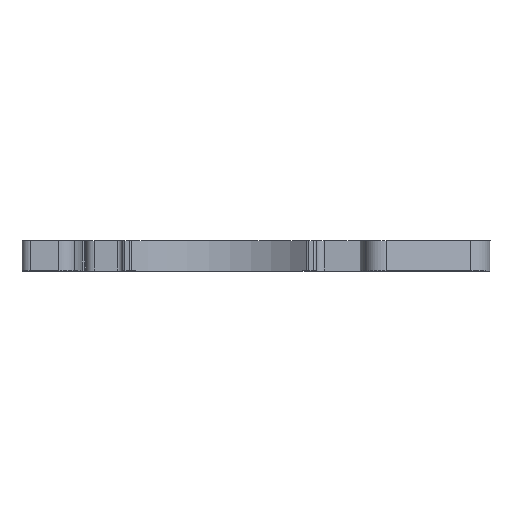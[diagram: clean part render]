
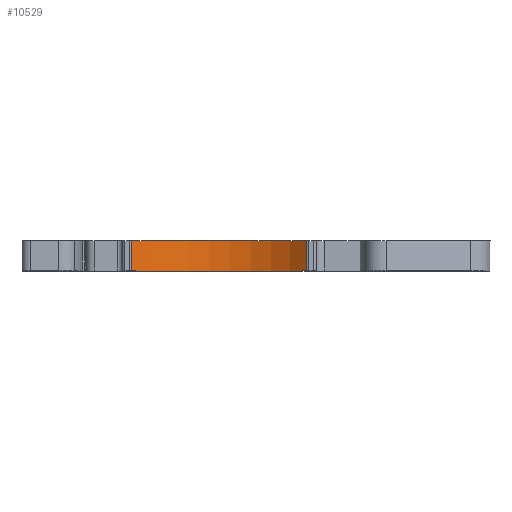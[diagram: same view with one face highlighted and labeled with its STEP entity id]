
A CAD part, top view. The second image highlights one B-rep face of the part: STEP entity #10529.
In plain terms, the highlighted cylindrical face has radius 15 mm (diameter 30 mm), a partial arc.
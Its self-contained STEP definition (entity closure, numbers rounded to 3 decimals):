
#165=CYLINDRICAL_SURFACE('',#11246,15.);
#253=CIRCLE('',#10921,15.);
#340=CIRCLE('',#11247,15.);
#2118=ORIENTED_EDGE('',*,*,#3814,.T.);
#2119=ORIENTED_EDGE('',*,*,#4587,.F.);
#2120=ORIENTED_EDGE('',*,*,#4588,.T.);
#2121=ORIENTED_EDGE('',*,*,#4589,.T.);
#3814=EDGE_CURVE('',#5305,#5304,#253,.T.);
#4587=EDGE_CURVE('',#5878,#5304,#6992,.T.);
#4588=EDGE_CURVE('',#5878,#5879,#340,.T.);
#4589=EDGE_CURVE('',#5879,#5305,#6993,.T.);
#5304=VERTEX_POINT('',#14960);
#5305=VERTEX_POINT('',#14962);
#5878=VERTEX_POINT('',#16710);
#5879=VERTEX_POINT('',#16714);
#6992=LINE('',#16711,#8294);
#6993=LINE('',#16715,#8295);
#8294=VECTOR('',#13317,1000.);
#8295=VECTOR('',#13322,1000.);
#9026=EDGE_LOOP('',(#2118,#2119,#2120,#2121));
#9565=FACE_BOUND('',#9026,.T.);
#10529=ADVANCED_FACE('',(#9565),#165,.F.);
#10921=AXIS2_PLACEMENT_3D('',#14961,#12052,#12053);
#11246=AXIS2_PLACEMENT_3D('',#16712,#13318,#13319);
#11247=AXIS2_PLACEMENT_3D('',#16713,#13320,#13321);
#12052=DIRECTION('',(0.,1.,0.));
#12053=DIRECTION('',(0.674,0.,-0.739));
#13317=DIRECTION('',(0.,1.,0.));
#13318=DIRECTION('',(0.,1.,0.));
#13319=DIRECTION('',(0.,0.,1.));
#13320=DIRECTION('',(0.,-1.,0.));
#13321=DIRECTION('',(0.,0.,1.));
#13322=DIRECTION('',(0.,1.,0.));
#14960=CARTESIAN_POINT('',(12.639,3.5,-3.828));
#14961=CARTESIAN_POINT('',(22.752,3.5,7.25));
#14962=CARTESIAN_POINT('',(32.865,3.5,-3.828));
#16710=CARTESIAN_POINT('',(12.639,0.,-3.828));
#16711=CARTESIAN_POINT('',(12.639,1.75,-3.828));
#16712=CARTESIAN_POINT('',(22.752,-0.07,7.25));
#16713=CARTESIAN_POINT('',(22.752,0.,7.25));
#16714=CARTESIAN_POINT('',(32.865,0.,-3.828));
#16715=CARTESIAN_POINT('',(32.865,1.75,-3.828));
